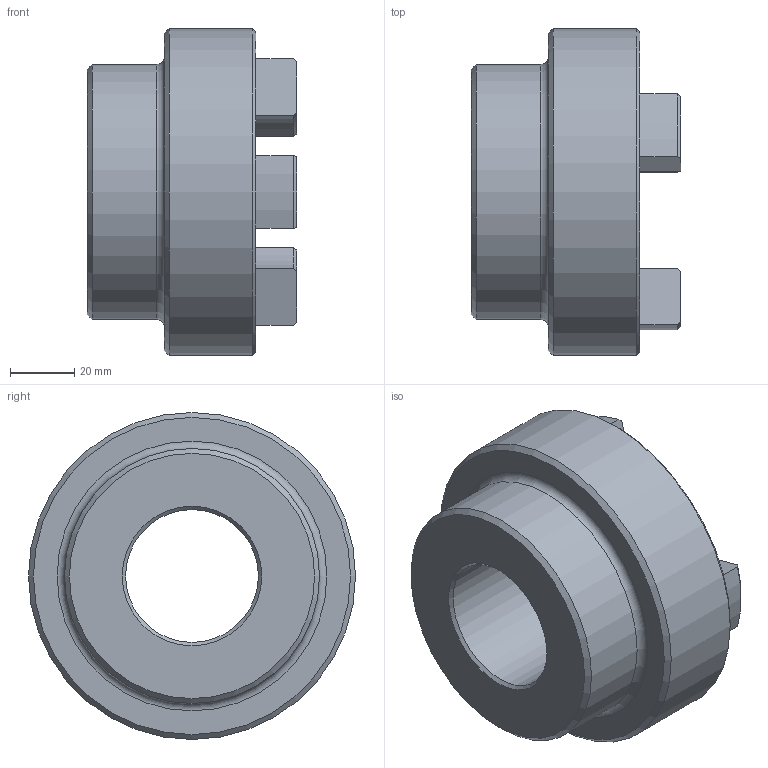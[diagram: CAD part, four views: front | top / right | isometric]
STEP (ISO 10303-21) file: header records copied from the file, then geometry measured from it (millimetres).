
FILE_DESCRIPTION (( 'STEP AP203' ), '1' );
FILE_NAME ('RC4.step', '2024-07-24T17:45:30', ( 'Adlan' ), ( '' ), 'SwSTEP 2.0', 'SolidWorks 2013', '' );
FILE_SCHEMA (( 'CONFIG_CONTROL_DESIGN' ));
Length unit declared in the file: inch
Products named in the file (1): RC4
Bounding box: 65.02 x 101.6 x 101.6 mm (x, y, z)
Volume: 229883 mm3; surface area: 40464.3 mm2
Topology: 1 solids, 1 shells, 60 faces, 146 edges, 90 vertices
Faces by surface type: cylinder 24, plane 13, torus 13, cone 10
Full cylindrical faces by diameter (mm): 41.288 x1, 79.248 x1, 101.6 x1
Entity records: 1841 total; most frequent: CARTESIAN_POINT 341, DIRECTION 324, ORIENTED_EDGE 274, EDGE_CURVE 137, AXIS2_PLACEMENT_3D 132, VERTEX_POINT 89, EDGE_LOOP 72, CIRCLE 71
